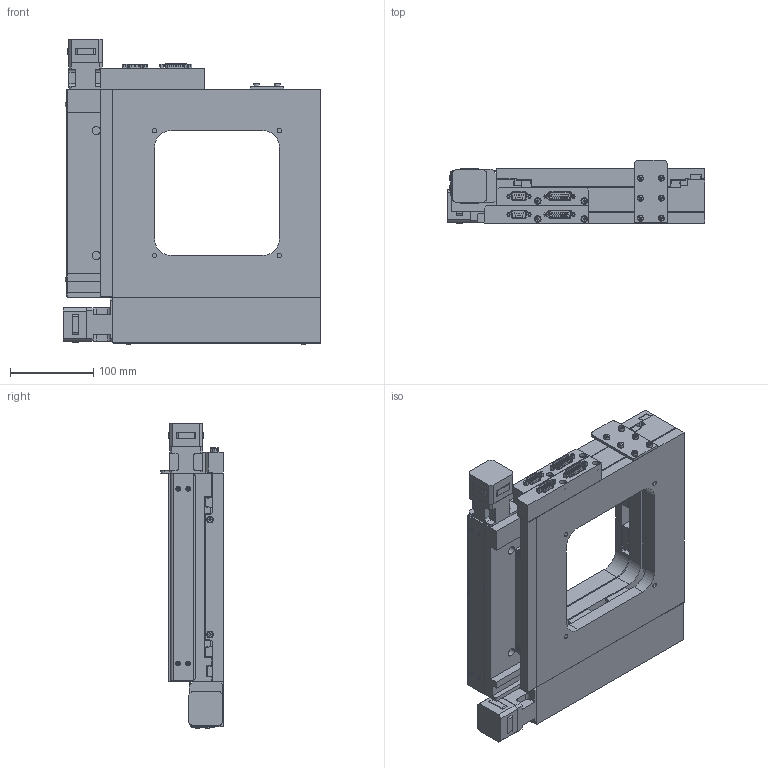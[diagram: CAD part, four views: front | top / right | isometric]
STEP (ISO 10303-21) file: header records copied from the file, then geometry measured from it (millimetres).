
FILE_DESCRIPTION (( 'STEP AP214' ), '1' );
FILE_NAME ('OXY-150-BS-B-EXPORT.STEP', '2025-07-09T17:08:08', ( 'lab' ), ( '' ), 'SwSTEP 2.0', 'SolidWorks 2018', '' );
FILE_SCHEMA (( 'AUTOMOTIVE_DESIGN' ));
Length unit declared in the file: millimetre
Products named in the file (10): 1000005_file_export13; 1000004_file_export12; OXY-150-BS-B-EXPORT; 1000003_file_export5; 1000001_Stepper Ballscrew; 1000012_Export; 1000010_file_export15; 1000009_file_export28; 1000002_Stepper Ballscrew; 1000006_file_export14
Assembly tree (24 placements, depth 2):
  OXY-150-BS-B-EXPORT
    1000001_Stepper Ballscrew
    1000002_Stepper Ballscrew
    1000003_file_export5
    1000004_file_export12  x8
    1000005_file_export13  x2
    1000006_file_export14  x2
    1000009_file_export28  x6
    1000010_file_export15
    1000012_Export  x2
Bounding box: 309.94 x 75.5 x 367.35 mm (x, y, z)
Volume: 3955553.6 mm3; surface area: 729310.7 mm2
Topology: 137 solids, 137 shells, 2790 faces, 6503 edges, 4062 vertices
Faces by surface type: plane 1598, cylinder 644, bspline 340, cone 192, sphere 16
Entity records: 66887 total; most frequent: CARTESIAN_POINT 15752, DIRECTION 9212, ORIENTED_EDGE 9136, EDGE_CURVE 4568, AXIS2_PLACEMENT_3D 3105, VECTOR 3002, LINE 3002, VERTEX_POINT 2917
